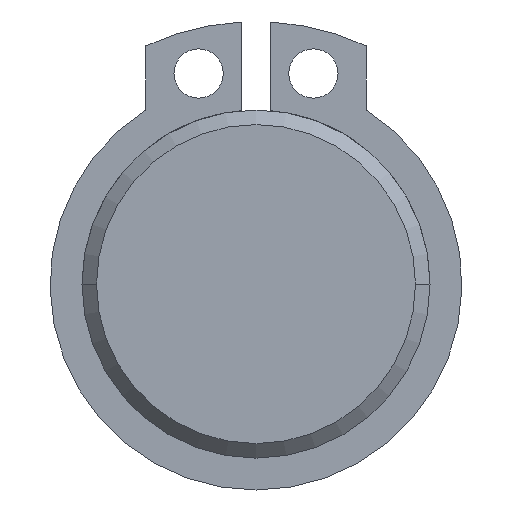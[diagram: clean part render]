
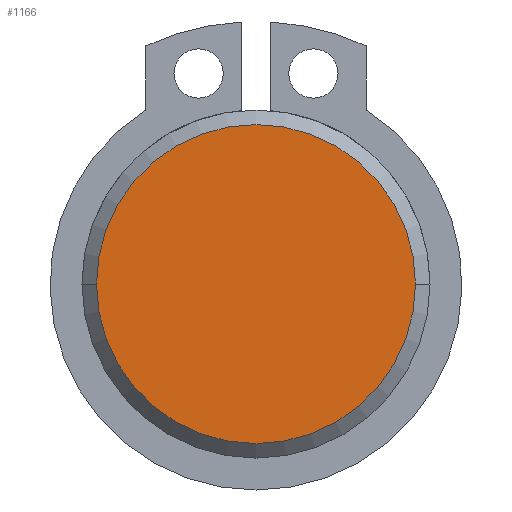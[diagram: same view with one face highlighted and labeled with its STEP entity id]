
A CAD part, left-side view. The second image highlights one B-rep face of the part: STEP entity #1166.
In plain terms, the highlighted planar face has unit normal (-1, 0, 0).
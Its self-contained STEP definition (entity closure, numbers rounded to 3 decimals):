
#439=CARTESIAN_POINT('',(-19.5,0.,0.));
#440=DIRECTION('',(-1.,0.,0.));
#441=DIRECTION('',(0.,1.,0.));
#442=AXIS2_PLACEMENT_3D('',#439,#440,#441);
#444=CARTESIAN_POINT('',(-19.5,0.,0.));
#445=DIRECTION('',(-1.,0.,0.));
#446=DIRECTION('',(0.,-1.,0.));
#447=AXIS2_PLACEMENT_3D('',#444,#445,#446);
#573=CARTESIAN_POINT('',(-19.5,5.5,0.));
#574=CARTESIAN_POINT('',(-19.5,-5.5,0.));
#575=VERTEX_POINT('',#573);
#576=VERTEX_POINT('',#574);
#1156=CARTESIAN_POINT('',(-19.5,0.,0.));
#1157=DIRECTION('',(1.,0.,0.));
#1158=DIRECTION('',(0.,-1.,0.));
#1159=AXIS2_PLACEMENT_3D('',#1156,#1157,#1158);
#1160=PLANE('',#1159);
#1162=ORIENTED_EDGE('',*,*,#1161,.F.);
#1163=ORIENTED_EDGE('',*,*,#1146,.F.);
#1164=EDGE_LOOP('',(#1162,#1163));
#1165=FACE_OUTER_BOUND('',#1164,.F.);
#1166=ADVANCED_FACE('',(#1165),#1160,.F.);
#443=CIRCLE('',#442,5.5);
#448=CIRCLE('',#447,5.5);
#1146=EDGE_CURVE('',#576,#575,#448,.T.);
#1161=EDGE_CURVE('',#575,#576,#443,.T.);
